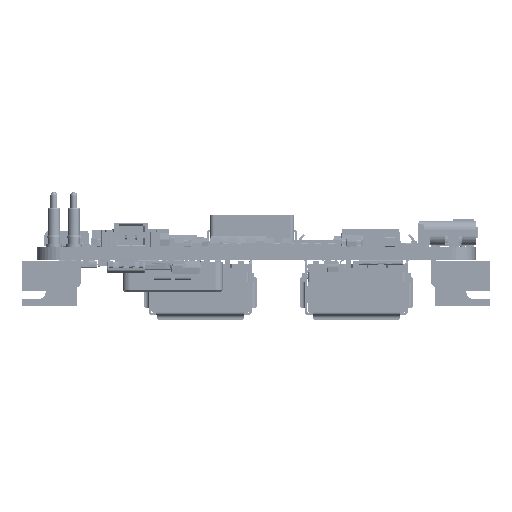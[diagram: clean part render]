
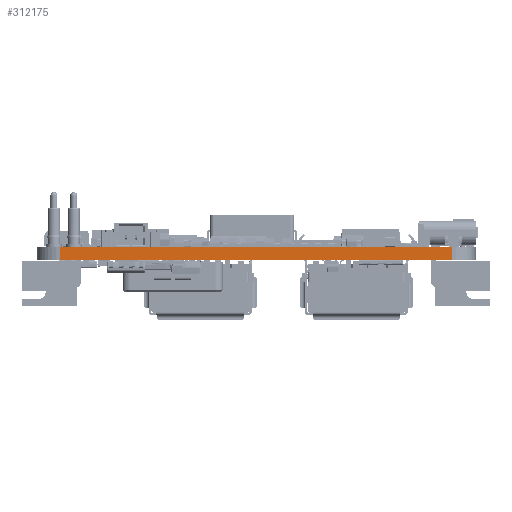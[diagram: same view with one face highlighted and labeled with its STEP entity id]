
A CAD part, left-side view. The second image highlights one B-rep face of the part: STEP entity #312175.
In plain terms, the highlighted planar face has unit normal (-1, 0, 0).
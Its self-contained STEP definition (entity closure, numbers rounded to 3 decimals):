
#309721 = VERTEX_POINT('',#309722);
#309722 = CARTESIAN_POINT('',(-42.5,-25.,0.));
#309729 = EDGE_CURVE('',#309721,#309730,#309732,.T.);
#309730 = VERTEX_POINT('',#309731);
#309731 = CARTESIAN_POINT('',(-42.5,25.,0.));
#309732 = LINE('',#309733,#309734);
#309733 = CARTESIAN_POINT('',(-42.5,-25.,0.));
#309734 = VECTOR('',#309735,1.);
#309735 = DIRECTION('',(0.,1.,0.));
#310943 = VERTEX_POINT('',#310944);
#310944 = CARTESIAN_POINT('',(-42.5,-25.,1.6));
#310951 = EDGE_CURVE('',#310943,#310952,#310954,.T.);
#310952 = VERTEX_POINT('',#310953);
#310953 = CARTESIAN_POINT('',(-42.5,25.,1.6));
#310954 = LINE('',#310955,#310956);
#310955 = CARTESIAN_POINT('',(-42.5,-25.,1.6));
#310956 = VECTOR('',#310957,1.);
#310957 = DIRECTION('',(0.,1.,0.));
#312145 = EDGE_CURVE('',#309730,#310952,#312146,.T.);
#312146 = LINE('',#312147,#312148);
#312147 = CARTESIAN_POINT('',(-42.5,25.,0.));
#312148 = VECTOR('',#312149,1.);
#312149 = DIRECTION('',(0.,0.,1.));
#312175 = ADVANCED_FACE('',(#312176),#312187,.T.);
#312176 = FACE_BOUND('',#312177,.T.);
#312177 = EDGE_LOOP('',(#312178,#312184,#312185,#312186));
#312178 = ORIENTED_EDGE('',*,*,#312179,.T.);
#312179 = EDGE_CURVE('',#309721,#310943,#312180,.T.);
#312180 = LINE('',#312181,#312182);
#312181 = CARTESIAN_POINT('',(-42.5,-25.,0.));
#312182 = VECTOR('',#312183,1.);
#312183 = DIRECTION('',(0.,0.,1.));
#312184 = ORIENTED_EDGE('',*,*,#310951,.T.);
#312185 = ORIENTED_EDGE('',*,*,#312145,.F.);
#312186 = ORIENTED_EDGE('',*,*,#309729,.F.);
#312187 = PLANE('',#312188);
#312188 = AXIS2_PLACEMENT_3D('',#312189,#312190,#312191);
#312189 = CARTESIAN_POINT('',(-42.5,-25.,0.));
#312190 = DIRECTION('',(-1.,0.,0.));
#312191 = DIRECTION('',(0.,1.,0.));
